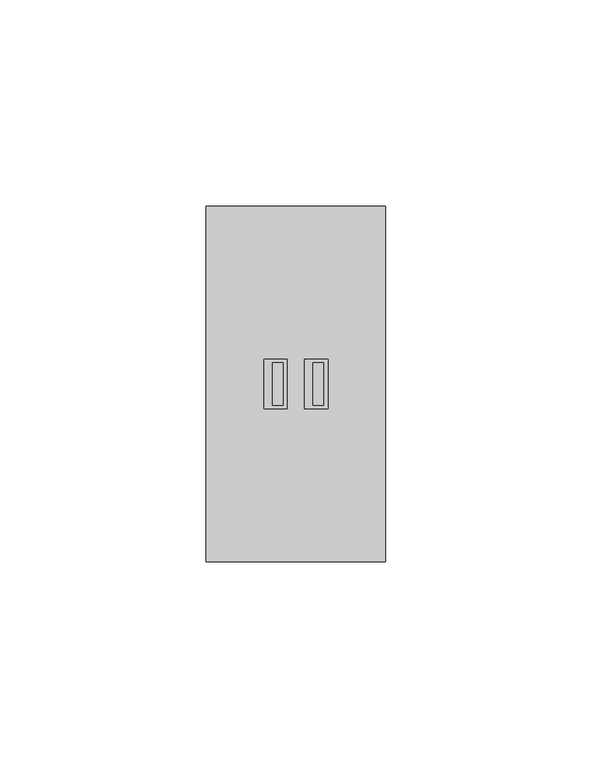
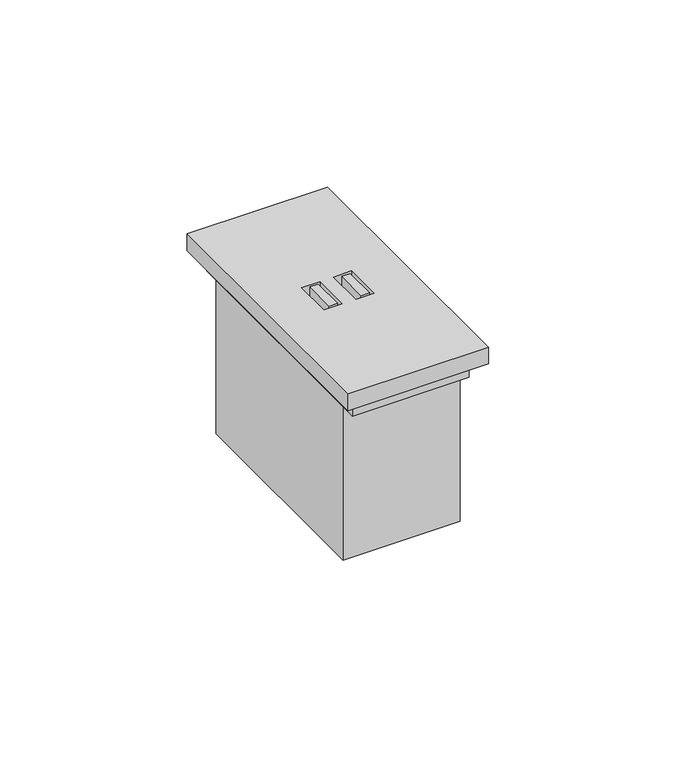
"""IFC4 building model written with IfcOpenShell, lengths in millimetres: proxy geometry, BT_LN-USB_A-K4285C2 : Presa USB-A - Art. K4285C2 - 2M - Cover Nero."""

from ifc_helpers import new_model, si_unit, frame, origin, origin_with_axes, place, context, project, spatial, polyline, outline, extrude, source, transform, mapped, element, save


def electrical_fixtures_146f3771(model_context):
    return source(origin(), model_context, "Body", "SweptSolid", [
        extrude(outline(polyline([(-18.0, 39.0), (18.0, 39.0), (18.0, -39.0), (-18.0, -39.0), (-18.0, 39.0)])), frame((0.0, 0.0, 50.0), z_axis=(0.0, 0.0, 1.0), x_axis=(1.0, 0.0, 0.0)), (0.0, 0.0, 1.0), 5.5),
        extrude(outline(polyline([(-18.0, 34.0), (18.0, 34.0), (18.0, -34.0), (-18.0, -34.0), (-18.0, 34.0)])), origin_with_axes(), (0.0, 0.0, 1.0), 50.0),
        extrude(outline(polyline([(-5.6322356, -5.1875), (-5.6322356, 5.1875), (-3.0974444, 5.1875), (-3.0974444, -5.1875), (-5.6322356, -5.1875)])), frame((0.0, 0.0, 55.5), z_axis=(0.0, 0.0, 1.0), x_axis=(1.0, 0.0, 0.0)), (0.0, 0.0, 1.0), 5.5),
        extrude(outline(polyline([(4.220348, -5.1875), (4.220348, 5.1875), (6.7551393, 5.1875), (6.7551393, -5.1875), (4.220348, -5.1875)])), frame((0.0, 0.0, 55.5), z_axis=(0.0, 0.0, 1.0), x_axis=(1.0, 0.0, 0.0)), (0.0, 0.0, 1.0), 5.5),
        extrude(outline(polyline([(-21.7, -43.0), (-21.7, 43.0), (21.7, 43.0), (21.7, -43.0), (-21.7, -43.0)]), holes=[polyline([(7.7551393, 6.0), (2.0974444, 6.0), (2.0974444, -6.0), (7.7551393, -6.0), (7.7551393, 6.0)]), polyline([(-2.0974444, 6.0), (-7.7551393, 6.0), (-7.7551393, -6.0), (-2.0974444, -6.0), (-2.0974444, 6.0)])]), frame((0.0, 0.0, 55.5), z_axis=(0.0, 0.0, 1.0), x_axis=(1.0, 0.0, 0.0)), (0.0, 0.0, 1.0), 5.5),
    ])


if __name__ == "__main__":
    model = new_model("IFC4")
    model_context = context("Model", 3, world=origin())
    ifc_project = project(units=[si_unit("LENGTHUNIT", "METRE", prefix="MILLI")], contexts=[model_context])
    site = spatial("IfcSite", under=ifc_project)
    building = spatial("IfcBuilding", under=site)
    placement = place(None, origin())
    electrical_fixtures_shape = electrical_fixtures_146f3771(model_context)
    element("IfcBuildingElementProxy", 1, Name="BT_LN-USB_A-K4285C2 : Presa USB-A - Art. K4285C2 - 2M - Cover Nero", ObjectType="BT_LN-USB_A-K4285C2 : Presa USB-A - Art. K4285C2 - 2M - Cover Nero", at=placement, inside=building, context=model_context, shape_type="MappedRepresentation", body=[
        mapped(electrical_fixtures_shape, transform((0.0, 0.0, 0.0), x_axis=(1.0, 0.0, 0.0), y_axis=(0.0, 1.0, 0.0), z_axis=(0.0, 0.0, 1.0))),
    ])
    save(model, "model.ifc")
